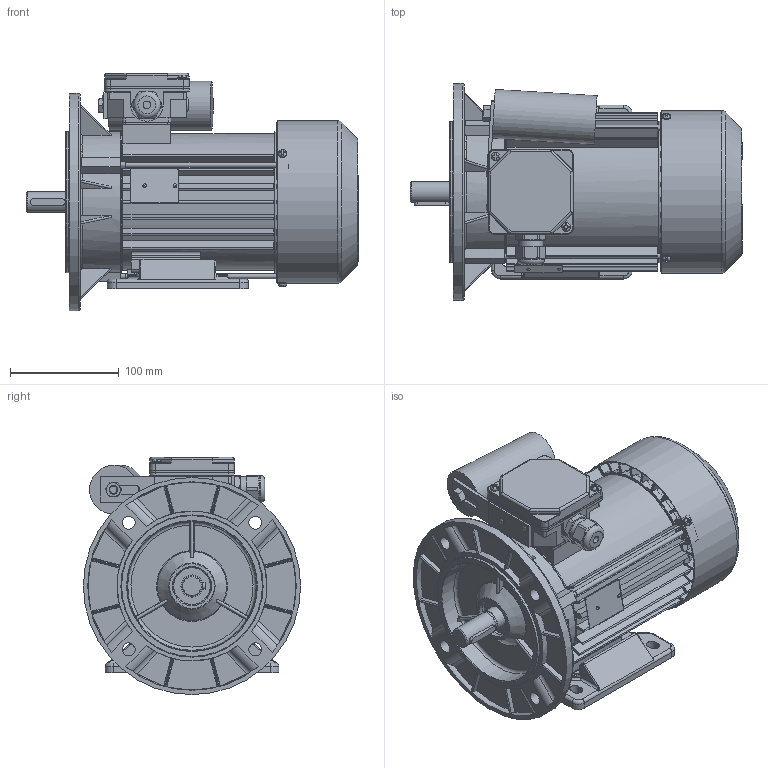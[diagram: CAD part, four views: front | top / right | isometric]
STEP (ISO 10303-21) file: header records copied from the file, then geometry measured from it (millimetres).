
FILE_DESCRIPTION( ( 'Unknown' ), '1' );
FILE_NAME( 'G:/Poczta Tk-1/STP/w.m.80/SEh80/SELh80-.C.stp', 'Unknown', ( 'K. Szlosek' ), ( 'BESEL S.A.' ), 'PSStep 17.0.49', 'Unknown', ' ' );
FILE_SCHEMA( ( 'AUTOMOTIVE_DESIGN { 1 0 10303 214 1 1 1 1 }' ) );
Length unit declared in the file: millimetre
Products named in the file (34): Assem1; K1-1257 Kadłub S(E,M)h80-C i D; K2-2027 Tarcza łożyskowa P S(E,M)h80-.A,C; K1-1258  zmiana Tarcza kołnierzowa B5 SKh80-..; Wkręt samogwintujący M4x16; Wkręt samogwintujący M4x10; K4-2999 Uchwyt kondensatora; K3-7039 wał standard Sh80-C; K4-4489 Osłona przewietrznika Sh80,90-A,C; K4-2320 Uszczelka nr 1 Sh71,80; K4-2820 Uszczelka nr 2 Sh71,80; K2-0860 Pokrywka skrzynki zaciskowej; K2-1131 Podstawa skrzynki zaciskowej jednofazowa; Wpust A6x6x32; K2-1715 Przewietrznik; K4-0898 Tulejka uszczelniająca; Kondensator zb 25-31,5uF Comar; nakrętka M8; Nit 4x12 po skróceniu; Nitokołek A 2x6; Łożysko 6204; Śruba ściągająca E_M5x168; Tabliczka znamionowa 32x44; K1-0437 Łapa Sh80-.. ; Dławnica M20x1,5
Assembly tree (50 placements, depth 2):
  Assem1
    K1-1257 Kadłub S(E,M)h80-C i D
    K2-2027 Tarcza łożyskowa P S(E,M)h80-.A,C
    K1-1258  zmiana Tarcza kołnierzowa B5 SKh80-..
    Wkręt samogwintujący M4x16  x2
    Wkręt samogwintujący M4x10  x3
    K4-2999 Uchwyt kondensatora
    K3-7039 wał standard Sh80-C
    K4-4489 Osłona przewietrznika Sh80,90-A,C
    K4-2320 Uszczelka nr 1 Sh71,80
    K4-2820 Uszczelka nr 2 Sh71,80
    K2-0860 Pokrywka skrzynki zaciskowej
    K2-1131 Podstawa skrzynki zaciskowej jednofazowa
    Wpust A6x6x32
    K2-1715 Przewietrznik
    K4-0898 Tulejka uszczelniająca
    Kondensator zb 25-31,5uF Comar
    nakrętka M8
    Nit 4x12 po skróceniu  x2
    Nitokołek A 2x6  x2
    Łożysko 6204  x2
    Łożysko 6204  x2
    Łożysko 6204  x2
    Łożysko 6204  x2
    Łożysko 6204  x2
    Łożysko 6204  x2
    Łożysko 6204  x2
    Łożysko 6204  x2
    Łożysko 6204  x2
    Łożysko 6204  x2
    Śruba ściągająca E_M5x168  x3
    Tabliczka znamionowa 32x44
    K1-0437 Łapa Sh80-.. 
    Dławnica M20x1,5
Bounding box: 305.8 x 200 x 218.5 mm (x, y, z)
Volume: 1349572.2 mm3; surface area: 676174 mm2
Topology: 50 solids, 66 shells, 2682 faces, 7336 edges, 4728 vertices
Faces by surface type: plane 1318, cylinder 926, bspline 149, torus 128, cone 125, sphere 36
Full cylindrical faces by diameter (mm): 2 x2, 2.4 x2, 3 x2, 3.7 x11, 4 x7, 4.134 x3, 4.3 x2, 4.5 x3, 4.6 x3, 4.8 x4, 5 x7, 5.5 x3, 6 x2, 6.5 x5, 6.647 x1, 7 x1, 8 x10, 10 x2, 12 x4, 18.376 x1, 18.38 x1, 18.6 x1, 19 x1, 19.3 x1, 19.5 x2, 19.9 x1, 20 x5, 20.3 x2, 20.4 x4, 22.3 x1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
Entity records: 123253 total; most frequent: CARTESIAN_POINT 41670, ORIENTED_EDGE 13036, DIRECTION 12791, EDGE_CURVE 6518, AXIS2_PLACEMENT_3D 4671, VERTEX_POINT 4382, LINE 3449, VECTOR 3449
